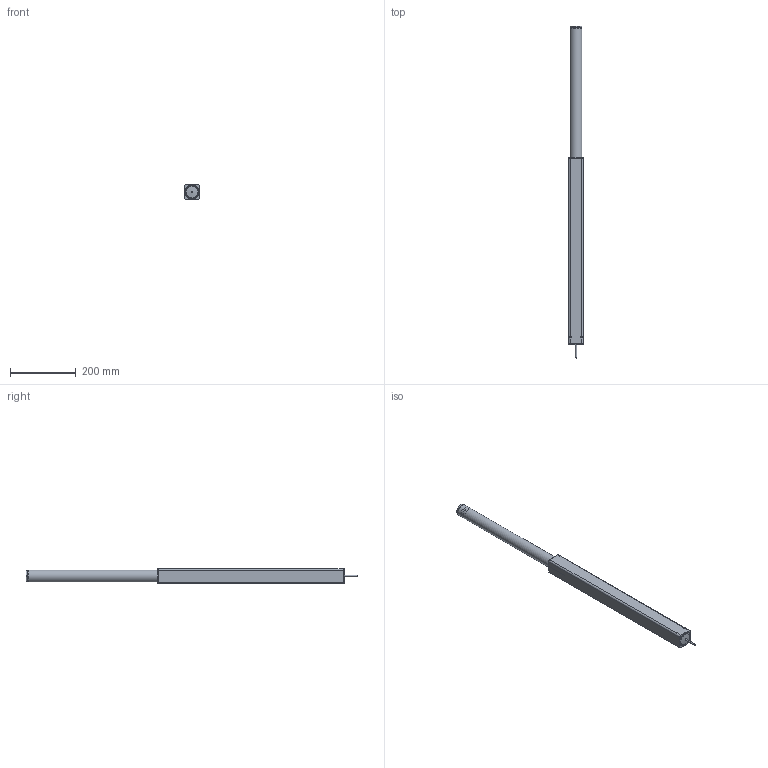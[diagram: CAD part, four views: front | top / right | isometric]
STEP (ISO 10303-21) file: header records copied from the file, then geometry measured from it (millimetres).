
FILE_DESCRIPTION(/* description */ ('Unknown'),/* implementation_level */ '2;1');
FILE_NAME(/* name */ '106.00644_01_ausgefahren',/* time_stamp */ '2020-11-11T17:06:17+01:00',/* author */ ('Unknown'),/* organization */ ('Unknown'),/* preprocessor_version */ 'ST-DEVELOPER v16.7',/* originating_system */ 'DEX',/* authorisation */ $);
FILE_SCHEMA (('AUTOMOTIVE_DESIGN {1 0 10303 214 3 1 1}'));
Length unit declared in the file: millimetre
Products named in the file (9): 106.00644; 119.00234; 142.00239; 115.00007_oa_0; 142.00235; 128.00015; 125.00273; 123.00134; 113.00002_70mm
Assembly tree (9 placements, depth 2):
  106.00644
    119.00234
    142.00239  x2
    115.00007_oa_0
    142.00235
    128.00015
    125.00273
    123.00134
    113.00002_70mm
Bounding box: 45 x 1006.5 x 45 mm (x, y, z)
Volume: 592282.1 mm3; surface area: 315682.6 mm2
Topology: 8 solids, 8 shells, 149 faces, 358 edges, 227 vertices
Faces by surface type: plane 56, cylinder 50, cone 23, torus 14, sphere 6
Full cylindrical faces by diameter (mm): 2.2 x1, 4 x7, 4.917 x4, 5 x1, 6.647 x1, 8.376 x2, 28.3 x1, 30 x1, 31.8 x3, 32 x1, 35 x2, 36 x4, 38.9 x1, 39 x1, 44 x1, 45 x1
Entity records: 4457 total; most frequent: CARTESIAN_POINT 847, DIRECTION 607, ORIENTED_EDGE 476, AXIS2_PLACEMENT_3D 264, EDGE_CURVE 238, EDGE_LOOP 224, FACE_BOUND 224, VERTEX_POINT 182
